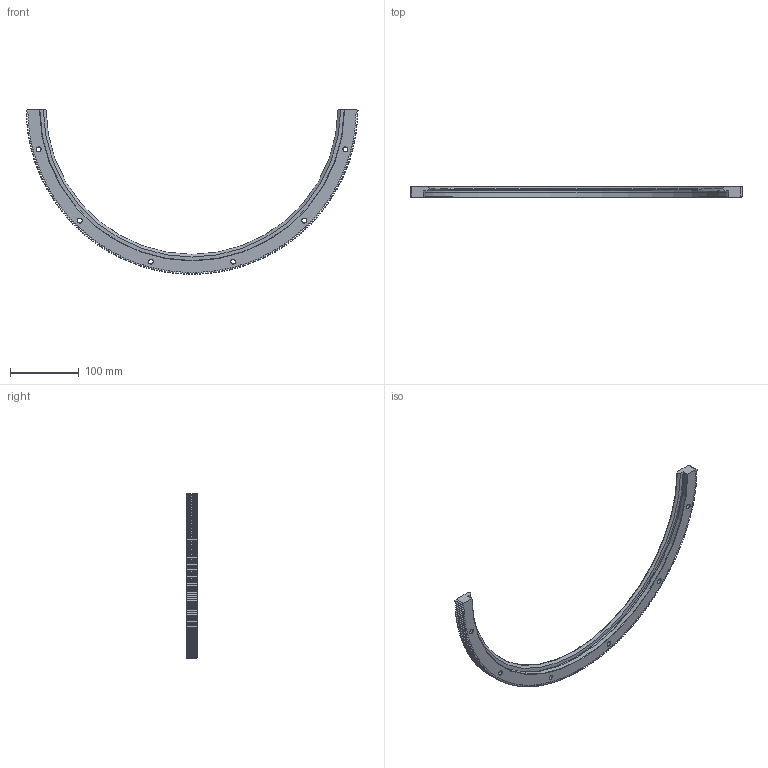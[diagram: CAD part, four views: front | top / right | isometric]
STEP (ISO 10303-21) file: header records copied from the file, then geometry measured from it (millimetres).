
FILE_DESCRIPTION( ( 'STEP AP203' ), '1' );
FILE_NAME( 'p:/temp/worker_12/temp/exporttempdir_2752_338_0psdl/format_0/RIM 482 R180 P.stp', '2021-09-21T06:35:26', ( 'License CC BY-ND 4.0' ), ( 'CADENAS' ), ' ', 'PARTsolutions', ' ' );
FILE_SCHEMA( ( 'CONFIG_CONTROL_DESIGN' ) );
Length unit declared in the file: millimetre
Products named in the file (1): _RIM 482 R180 P
Bounding box: 482.45 x 15.5 x 239.25 mm (x, y, z)
Volume: 231281.4 mm3; surface area: 73489.9 mm2
Topology: 1 solids, 1 shells, 1182 faces, 3516 edges, 2342 vertices
Faces by surface type: plane 776, cylinder 205, cone 200, torus 1
Full cylindrical faces by diameter (mm): 6.8 x6, 11 x6
Entity records: 39762 total; most frequent: CARTESIAN_POINT 8203, ORIENTED_EDGE 6996, DIRECTION 6086, EDGE_CURVE 3498, LINE 2496, VECTOR 2496, VERTEX_POINT 2342, AXIS2_PLACEMENT_3D 1795
